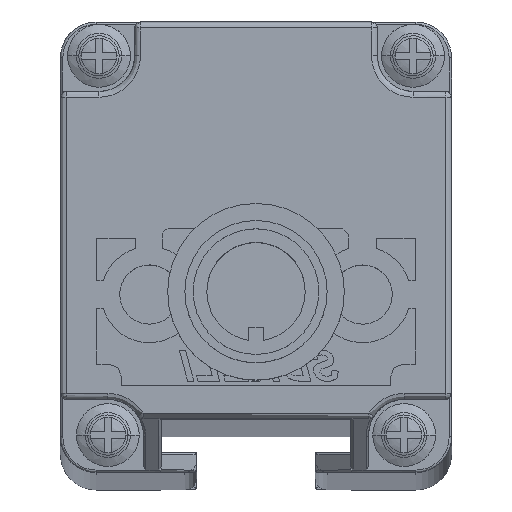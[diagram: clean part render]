
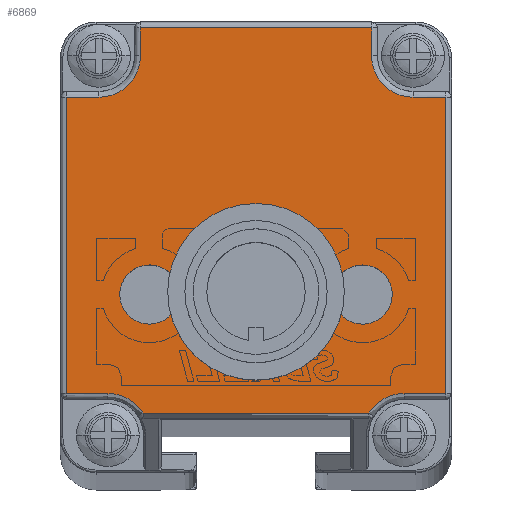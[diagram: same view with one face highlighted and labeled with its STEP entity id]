
A CAD part, top view. The second image highlights one B-rep face of the part: STEP entity #6869.
In plain terms, the highlighted planar face has unit normal (0, 0, 1).
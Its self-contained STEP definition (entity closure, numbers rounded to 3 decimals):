
#2781=CARTESIAN_POINT('',(0.65,-8.054,
725.276));
#2782=DIRECTION('',(0.,0.,1.));
#2783=DIRECTION('',(1.,0.,0.));
#2784=AXIS2_PLACEMENT_3D('',#2781,#2782,#2783);
#2786=CARTESIAN_POINT('',(0.65,-8.054,
725.276));
#2787=DIRECTION('',(0.,0.,1.));
#2788=DIRECTION('',(-1.,0.,0.));
#2789=AXIS2_PLACEMENT_3D('',#2786,#2787,#2788);
#2791=CARTESIAN_POINT('',(9.65,-8.055,725.276));
#2792=DIRECTION('',(0.,0.,1.));
#2793=DIRECTION('',(1.,-0.007,0.));
#2794=AXIS2_PLACEMENT_3D('',#2791,#2792,#2793);
#2796=CARTESIAN_POINT('',(9.65,-8.055,725.276));
#2797=DIRECTION('',(0.,0.,1.));
#2798=DIRECTION('',(-1.,0.007,0.));
#2799=AXIS2_PLACEMENT_3D('',#2796,#2797,#2798);
#2801=CARTESIAN_POINT('',(-8.35,-8.054,
725.276));
#2802=DIRECTION('',(0.,0.,1.));
#2803=DIRECTION('',(1.,0.007,0.));
#2804=AXIS2_PLACEMENT_3D('',#2801,#2802,#2803);
#2806=CARTESIAN_POINT('',(-8.35,-8.054,
725.276));
#2807=DIRECTION('',(0.,0.,1.));
#2808=DIRECTION('',(-1.,-0.007,0.));
#2809=AXIS2_PLACEMENT_3D('',#2806,#2807,#2808);
#2811=CARTESIAN_POINT('',(-11.85,-19.904,
725.276));
#2812=DIRECTION('',(0.,0.,1.));
#2813=DIRECTION('',(0.849,0.528,0.));
#2814=AXIS2_PLACEMENT_3D('',#2811,#2812,#2813);
#2816=CARTESIAN_POINT('',(-12.6,12.094,725.276));
#2817=DIRECTION('',(0.,0.,1.));
#2818=DIRECTION('',(0.,-1.,0.));
#2819=AXIS2_PLACEMENT_3D('',#2816,#2817,#2818);
#2821=CARTESIAN_POINT('',(13.9,12.094,725.276));
#2822=DIRECTION('',(0.,0.,1.));
#2823=DIRECTION('',(-1.,0.,0.));
#2824=AXIS2_PLACEMENT_3D('',#2821,#2822,#2823);
#2826=CARTESIAN_POINT('',(13.15,-19.904,725.276));
#2827=DIRECTION('',(0.,0.,1.));
#2828=DIRECTION('',(0.,1.,0.));
#2829=AXIS2_PLACEMENT_3D('',#2826,#2827,#2828);
#4545=DIRECTION('',(1.,0.,0.));
#4546=VECTOR('',#4545,19.056);
#4547=CARTESIAN_POINT('',(-8.878,-18.056,
725.276));
#4548=LINE('',#4547,#4546);
#4928=DIRECTION('',(0.,1.,0.));
#4929=VECTOR('',#4928,24.998);
#4930=CARTESIAN_POINT('',(16.65,-16.404,725.276));
#4931=LINE('',#4930,#4929);
#4951=DIRECTION('',(1.,0.,0.));
#4952=VECTOR('',#4951,3.5);
#4953=CARTESIAN_POINT('',(13.15,-16.404,725.276));
#4954=LINE('',#4953,#4952);
#4975=DIRECTION('',(-1.,0.,0.));
#4976=VECTOR('',#4975,2.75);
#4977=CARTESIAN_POINT('',(16.65,8.594,725.276));
#4978=LINE('',#4977,#4976);
#5002=DIRECTION('',(0.,1.,0.));
#5003=VECTOR('',#5002,2.35);
#5004=CARTESIAN_POINT('',(10.4,12.094,725.276));
#5005=LINE('',#5004,#5003);
#5213=DIRECTION('',(-1.,0.,0.));
#5214=VECTOR('',#5213,19.5);
#5215=CARTESIAN_POINT('',(10.4,14.444,725.276));
#5216=LINE('',#5215,#5214);
#5252=DIRECTION('',(0.,-1.,0.));
#5253=VECTOR('',#5252,2.35);
#5254=CARTESIAN_POINT('',(-9.1,14.444,725.276));
#5255=LINE('',#5254,#5253);
#5279=DIRECTION('',(-1.,0.,0.));
#5280=VECTOR('',#5279,2.75);
#5281=CARTESIAN_POINT('',(-12.6,8.594,725.276));
#5282=LINE('',#5281,#5280);
#5450=DIRECTION('',(0.,-1.,0.));
#5451=VECTOR('',#5450,24.998);
#5452=CARTESIAN_POINT('',(-15.35,8.594,725.276));
#5453=LINE('',#5452,#5451);
#5489=DIRECTION('',(1.,0.,0.));
#5490=VECTOR('',#5489,3.5);
#5491=CARTESIAN_POINT('',(-15.35,-16.404,
725.276));
#5492=LINE('',#5491,#5490);
#5953=CARTESIAN_POINT('',(12.15,-8.072,725.276));
#5954=VERTEX_POINT('',#5953);
#5955=CARTESIAN_POINT('',(7.15,-8.039,725.276));
#5956=VERTEX_POINT('',#5955);
#5957=CARTESIAN_POINT('',(-8.878,-18.056,
725.276));
#5958=CARTESIAN_POINT('',(-11.85,-16.404,
725.276));
#5959=VERTEX_POINT('',#5957);
#5960=VERTEX_POINT('',#5958);
#5961=CARTESIAN_POINT('',(-15.35,-16.404,
725.276));
#5962=VERTEX_POINT('',#5961);
#5963=CARTESIAN_POINT('',(-15.35,8.594,725.276));
#5964=VERTEX_POINT('',#5963);
#5965=CARTESIAN_POINT('',(-12.6,8.594,725.276));
#5966=VERTEX_POINT('',#5965);
#5967=CARTESIAN_POINT('',(-9.1,12.094,725.276));
#5968=VERTEX_POINT('',#5967);
#5969=CARTESIAN_POINT('',(-9.1,14.444,725.276));
#5970=VERTEX_POINT('',#5969);
#5971=CARTESIAN_POINT('',(10.4,14.444,725.276));
#5972=VERTEX_POINT('',#5971);
#5973=CARTESIAN_POINT('',(10.4,12.094,725.276));
#5974=VERTEX_POINT('',#5973);
#5975=CARTESIAN_POINT('',(13.9,8.594,725.276));
#5976=VERTEX_POINT('',#5975);
#5977=CARTESIAN_POINT('',(16.65,8.594,725.276));
#5978=VERTEX_POINT('',#5977);
#5979=CARTESIAN_POINT('',(16.65,-16.404,725.276));
#5980=VERTEX_POINT('',#5979);
#5981=CARTESIAN_POINT('',(13.15,-16.404,725.276));
#5982=VERTEX_POINT('',#5981);
#5983=CARTESIAN_POINT('',(10.178,-18.056,725.276));
#5984=VERTEX_POINT('',#5983);
#5985=CARTESIAN_POINT('',(-5.85,-8.037,
725.276));
#5986=CARTESIAN_POINT('',(-10.85,-8.07,
725.276));
#5987=VERTEX_POINT('',#5985);
#5988=VERTEX_POINT('',#5986);
#5989=CARTESIAN_POINT('',(3.65,-8.054,725.276));
#5990=CARTESIAN_POINT('',(-2.35,-8.054,
725.276));
#5991=VERTEX_POINT('',#5989);
#5992=VERTEX_POINT('',#5990);
#6818=CARTESIAN_POINT('',(0.65,0.944,
725.276));
#6819=DIRECTION('',(0.,0.,1.));
#6820=DIRECTION('',(1.,0.,0.));
#6821=AXIS2_PLACEMENT_3D('',#6818,#6819,#6820);
#6822=PLANE('',#6821);
#6824=ORIENTED_EDGE('',*,*,#6823,.T.);
#6826=ORIENTED_EDGE('',*,*,#6825,.F.);
#6828=ORIENTED_EDGE('',*,*,#6827,.F.);
#6830=ORIENTED_EDGE('',*,*,#6829,.F.);
#6832=ORIENTED_EDGE('',*,*,#6831,.T.);
#6834=ORIENTED_EDGE('',*,*,#6833,.F.);
#6836=ORIENTED_EDGE('',*,*,#6835,.F.);
#6838=ORIENTED_EDGE('',*,*,#6837,.F.);
#6840=ORIENTED_EDGE('',*,*,#6839,.T.);
#6842=ORIENTED_EDGE('',*,*,#6841,.F.);
#6844=ORIENTED_EDGE('',*,*,#6843,.F.);
#6846=ORIENTED_EDGE('',*,*,#6845,.F.);
#6848=ORIENTED_EDGE('',*,*,#6847,.T.);
#6850=ORIENTED_EDGE('',*,*,#6849,.F.);
#6851=EDGE_LOOP('',(#6824,#6826,#6828,#6830,#6832,#6834,#6836,#6838,#6840,#6842,
#6844,#6846,#6848,#6850));
#6852=FACE_OUTER_BOUND('',#6851,.F.);
#6853=ORIENTED_EDGE('',*,*,#6805,.T.);
#6854=ORIENTED_EDGE('',*,*,#6766,.T.);
#6855=EDGE_LOOP('',(#6853,#6854));
#6856=FACE_BOUND('',#6855,.F.);
#6858=ORIENTED_EDGE('',*,*,#6857,.T.);
#6860=ORIENTED_EDGE('',*,*,#6859,.T.);
#6861=EDGE_LOOP('',(#6858,#6860));
#6862=FACE_BOUND('',#6861,.F.);
#6864=ORIENTED_EDGE('',*,*,#6863,.T.);
#6866=ORIENTED_EDGE('',*,*,#6865,.T.);
#6867=EDGE_LOOP('',(#6864,#6866));
#6868=FACE_BOUND('',#6867,.F.);
#2785=CIRCLE('',#2784,3.);
#2790=CIRCLE('',#2789,3.);
#2795=CIRCLE('',#2794,2.5);
#2800=CIRCLE('',#2799,2.5);
#2805=CIRCLE('',#2804,2.5);
#2810=CIRCLE('',#2809,2.5);
#2815=CIRCLE('',#2814,3.5);
#2820=CIRCLE('',#2819,3.5);
#2825=CIRCLE('',#2824,3.5);
#2830=CIRCLE('',#2829,3.5);
#6766=EDGE_CURVE('',#5956,#5954,#2800,.T.);
#6805=EDGE_CURVE('',#5954,#5956,#2795,.T.);
#6823=EDGE_CURVE('',#5959,#5960,#2815,.T.);
#6825=EDGE_CURVE('',#5962,#5960,#5492,.T.);
#6827=EDGE_CURVE('',#5964,#5962,#5453,.T.);
#6829=EDGE_CURVE('',#5966,#5964,#5282,.T.);
#6831=EDGE_CURVE('',#5966,#5968,#2820,.T.);
#6833=EDGE_CURVE('',#5970,#5968,#5255,.T.);
#6835=EDGE_CURVE('',#5972,#5970,#5216,.T.);
#6837=EDGE_CURVE('',#5974,#5972,#5005,.T.);
#6839=EDGE_CURVE('',#5974,#5976,#2825,.T.);
#6841=EDGE_CURVE('',#5978,#5976,#4978,.T.);
#6843=EDGE_CURVE('',#5980,#5978,#4931,.T.);
#6845=EDGE_CURVE('',#5982,#5980,#4954,.T.);
#6847=EDGE_CURVE('',#5982,#5984,#2830,.T.);
#6849=EDGE_CURVE('',#5959,#5984,#4548,.T.);
#6857=EDGE_CURVE('',#5987,#5988,#2805,.T.);
#6859=EDGE_CURVE('',#5988,#5987,#2810,.T.);
#6863=EDGE_CURVE('',#5991,#5992,#2785,.T.);
#6865=EDGE_CURVE('',#5992,#5991,#2790,.T.);
#6869=ADVANCED_FACE('',(#6852,#6856,#6862,#6868),#6822,.T.);
